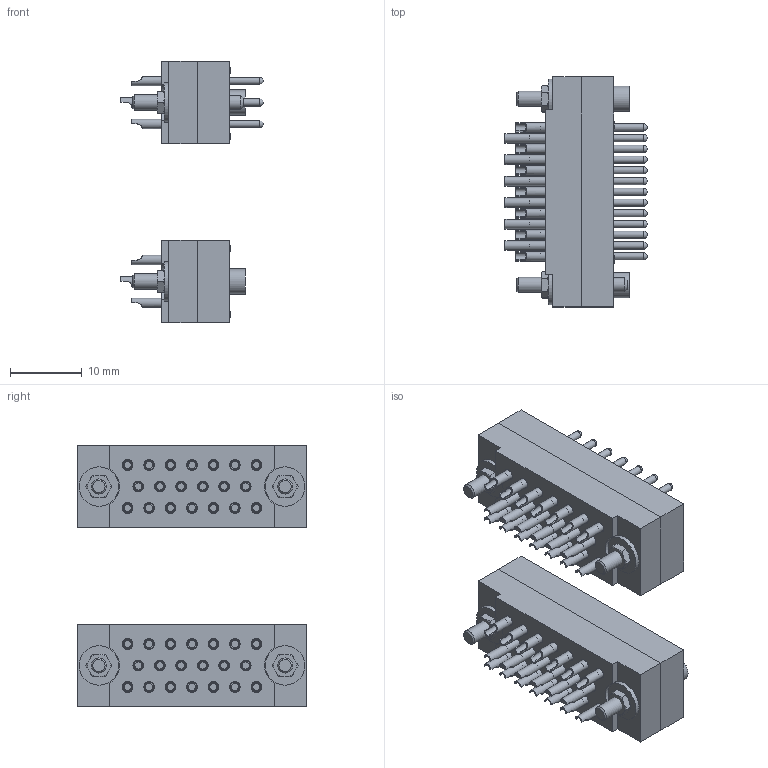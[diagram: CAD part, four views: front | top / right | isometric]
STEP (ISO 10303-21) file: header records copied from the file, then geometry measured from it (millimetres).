
FILE_DESCRIPTION(('STEP AP214'),'1');
FILE_NAME('20 pin connectors.stp','2017-09-01T11:01:02',(' '),(' '),'Spatial InterOp 3D',' ',' ');
FILE_SCHEMA(('automotive_design'));
Length unit declared in the file: millimetre
Products named in the file (35): 20 pin plug; 20 pin plug front; 20 pin plug rear; Alignment pin; Body; Washer : Plain - M2.0 x 0.75; Nut : Standard - M2.0 x 26.162; Alignment socket; 1-7 text0; 8-13 text0; 14-20 text0; 20 pin connectors; 20 pin socket; 20 pin socket front; 20 pin socket rear
Assembly tree (68 placements, depth 4):
  20 pin connectors
    20 pin plug
      20 pin plug front
      20 pin plug rear
      Alignment pin
        Body
        Washer : Plain - M2.0 x 0.75
        Nut : Standard - M2.0 x 26.162
      Alignment socket
        Body
        Washer : Plain - M2.0 x 0.75
        Nut : Standard - M2.0 x 26.162
      (unnamed)  x7
      (unnamed)  x7
      (unnamed)  x6
      1-7 text0
      8-13 text0
      14-20 text0
    20 pin socket
      20 pin socket front
      20 pin socket rear
      Alignment pin
        Body
        Washer : Plain - M2.0 x 0.75
        Nut : Standard - M2.0 x 26.162
      Alignment socket
        Body
        Washer : Plain - M2.0 x 0.75
        Nut : Standard - M2.0 x 26.162
      (unnamed)  x7
      (unnamed)  x7
      (unnamed)  x6
      1-7 text0
      8-13 text0
      14-20 text0
Bounding box: 19.9 x 32.1 x 36.5 mm (x, y, z)
Volume: 6895.5 mm3; surface area: 11402.2 mm2
Topology: 74 solids, 74 shells, 1792 faces, 4412 edges, 2920 vertices
Faces by surface type: plane 1270, cylinder 400, cone 102, sphere 20
Full cylindrical faces by diameter (mm): 1 x80, 1.3 x80, 1.5 x40, 1.6 x4, 1.97 x2, 2 x104, 2.006 x16, 2.1 x4, 2.3 x4, 2.4 x10, 3.5 x2, 3.55 x2, 4 x4, 5.5 x4
Entity records: 52810 total; most frequent: CARTESIAN_POINT 8807, ORIENTED_EDGE 6380, DIRECTION 6324, EDGE_CURVE 3190, LINE 2554, VECTOR 2554, VERTEX_POINT 2264, EDGE_LOOP 1926
